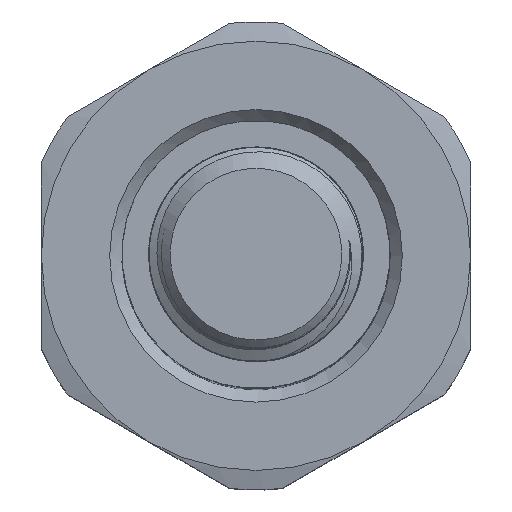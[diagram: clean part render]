
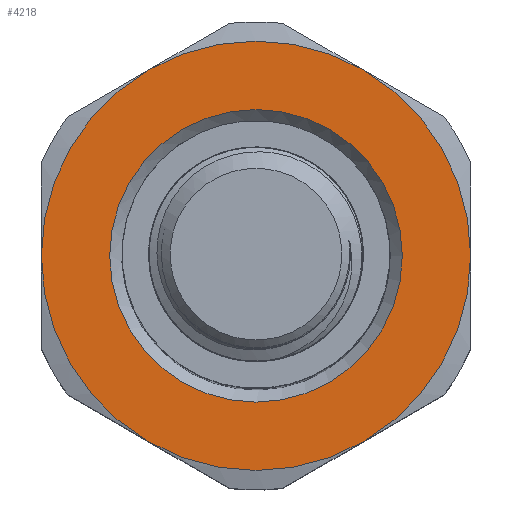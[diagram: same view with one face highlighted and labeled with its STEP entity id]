
A CAD part, top view. The second image highlights one B-rep face of the part: STEP entity #4218.
In plain terms, the highlighted planar face has unit normal (0, 0, 1).
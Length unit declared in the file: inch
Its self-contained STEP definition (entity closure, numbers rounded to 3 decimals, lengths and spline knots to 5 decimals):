
#43=FACE_BOUND('',#547,.T.);
#109=PLANE('',#4526);
#302=FACE_OUTER_BOUND('',#546,.T.);
#546=EDGE_LOOP('',(#2789,#2790,#2791,#2792,#2793,#2794));
#547=EDGE_LOOP('',(#2795));
#1053=CIRCLE('',#4489,0.5);
#1054=CIRCLE('',#4491,0.5);
#1055=CIRCLE('',#4493,0.5);
#1056=CIRCLE('',#4495,0.5);
#1057=CIRCLE('',#4497,0.5);
#1058=CIRCLE('',#4499,0.5);
#1077=CIRCLE('',#4527,0.34075);
#1532=VERTEX_POINT('',#6681);
#1540=VERTEX_POINT('',#6708);
#1546=VERTEX_POINT('',#6732);
#1552=VERTEX_POINT('',#6756);
#1558=VERTEX_POINT('',#6780);
#1564=VERTEX_POINT('',#6804);
#1589=VERTEX_POINT('',#7106);
#2034=EDGE_CURVE('',#1558,#1552,#1053,.T.);
#2035=EDGE_CURVE('',#1564,#1558,#1054,.T.);
#2036=EDGE_CURVE('',#1552,#1546,#1055,.T.);
#2037=EDGE_CURVE('',#1546,#1540,#1056,.T.);
#2038=EDGE_CURVE('',#1532,#1564,#1057,.T.);
#2039=EDGE_CURVE('',#1540,#1532,#1058,.T.);
#2066=EDGE_CURVE('',#1589,#1589,#1077,.T.);
#2789=ORIENTED_EDGE('',*,*,#2038,.T.);
#2790=ORIENTED_EDGE('',*,*,#2035,.T.);
#2791=ORIENTED_EDGE('',*,*,#2034,.T.);
#2792=ORIENTED_EDGE('',*,*,#2036,.T.);
#2793=ORIENTED_EDGE('',*,*,#2037,.T.);
#2794=ORIENTED_EDGE('',*,*,#2039,.T.);
#2795=ORIENTED_EDGE('',*,*,#2066,.F.);
#4218=ADVANCED_FACE('',(#302,#43),#109,.T.);
#4489=AXIS2_PLACEMENT_3D('',#6837,#5073,#5074);
#4491=AXIS2_PLACEMENT_3D('',#6839,#5077,#5078);
#4493=AXIS2_PLACEMENT_3D('',#6841,#5081,#5082);
#4495=AXIS2_PLACEMENT_3D('',#6843,#5085,#5086);
#4497=AXIS2_PLACEMENT_3D('',#6845,#5089,#5090);
#4499=AXIS2_PLACEMENT_3D('',#6847,#5093,#5094);
#4526=AXIS2_PLACEMENT_3D('',#7105,#5149,#5150);
#4527=AXIS2_PLACEMENT_3D('',#7107,#5151,#5152);
#5073=DIRECTION('center_axis',(0.,0.,1.));
#5074=DIRECTION('ref_axis',(0.,1.,0.));
#5077=DIRECTION('center_axis',(0.,0.,1.));
#5078=DIRECTION('ref_axis',(0.,1.,0.));
#5081=DIRECTION('center_axis',(0.,0.,1.));
#5082=DIRECTION('ref_axis',(0.,1.,0.));
#5085=DIRECTION('center_axis',(0.,0.,1.));
#5086=DIRECTION('ref_axis',(0.,1.,0.));
#5089=DIRECTION('center_axis',(0.,0.,1.));
#5090=DIRECTION('ref_axis',(0.,1.,0.));
#5093=DIRECTION('center_axis',(0.,0.,1.));
#5094=DIRECTION('ref_axis',(0.,1.,0.));
#5149=DIRECTION('center_axis',(0.,0.,1.));
#5150=DIRECTION('ref_axis',(1.,0.,0.));
#5151=DIRECTION('center_axis',(0.,0.,1.));
#5152=DIRECTION('ref_axis',(-1.,0.,0.));
#6681=CARTESIAN_POINT('',(0.5,0.,0.));
#6708=CARTESIAN_POINT('',(0.25,-0.43301,0.));
#6732=CARTESIAN_POINT('',(-0.25,-0.43301,0.));
#6756=CARTESIAN_POINT('',(-0.5,0.,0.));
#6780=CARTESIAN_POINT('',(-0.25,0.43301,0.));
#6804=CARTESIAN_POINT('',(0.25,0.43301,0.));
#6837=CARTESIAN_POINT('Origin',(0.,0.,0.));
#6839=CARTESIAN_POINT('Origin',(0.,0.,0.));
#6841=CARTESIAN_POINT('Origin',(0.,0.,0.));
#6843=CARTESIAN_POINT('Origin',(0.,0.,0.));
#6845=CARTESIAN_POINT('Origin',(0.,0.,0.));
#6847=CARTESIAN_POINT('Origin',(0.,0.,0.));
#7105=CARTESIAN_POINT('Origin',(0.,0.,
0.));
#7106=CARTESIAN_POINT('',(0.34075,0.,0.));
#7107=CARTESIAN_POINT('Origin',(0.,0.,0.));
